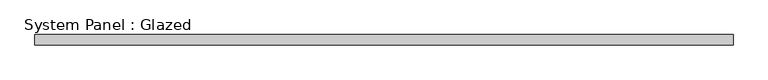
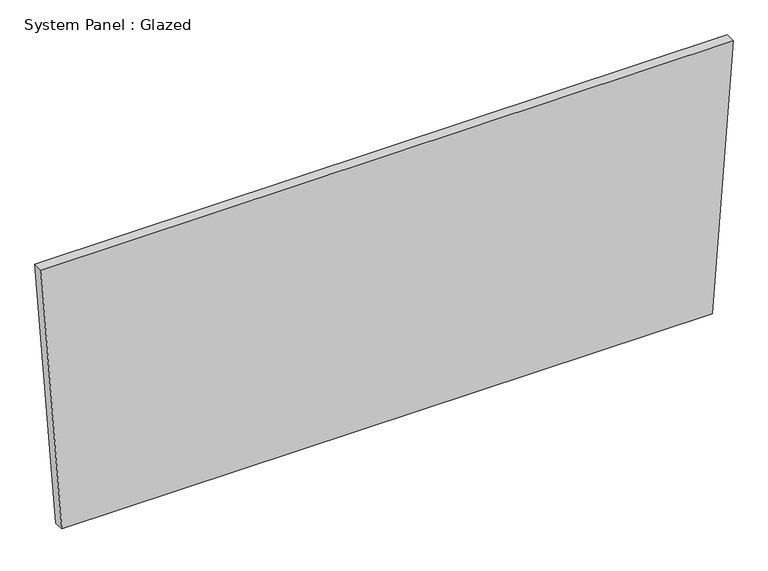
"""IFC4 building model written with IfcOpenShell, lengths in millimetres: plate geometry, System Panel : Glazed."""

from ifc_helpers import new_model, si_unit, frame, origin, place, context, project, spatial, polyline, outline, extrude, source, transform, mapped, element, save


def system_panel_glazed_7a613e81(model_context):
    return source(origin(), model_context, "Body", "SweptSolid", [
        extrude(outline(polyline([(0.0011839, -812.2135261), (0.0, 812.2134379), (702.0474017, 864.5062882), (702.0474017, -864.5062882), (0.0011839, -812.2135261)])), frame((0.0, 19.05, 0.0), z_axis=(0.0, 1.0, 0.0), x_axis=(0.0, 0.0, 1.0)), (0.0, 0.0, 1.0), 25.4),
    ])


if __name__ == "__main__":
    model = new_model("IFC4")
    model_context = context("Model", 3, world=origin())
    ifc_project = project(units=[si_unit("LENGTHUNIT", "METRE", prefix="MILLI")], contexts=[model_context])
    site = spatial("IfcSite", under=ifc_project)
    building = spatial("IfcBuilding", under=site)
    placement = place(None, origin())
    system_panel_glazed_shape = system_panel_glazed_7a613e81(model_context)
    element("IfcPlate", 1, ObjectType="System Panel : Glazed", at=placement, inside=building, context=model_context, shape_type="MappedRepresentation", body=[
        mapped(system_panel_glazed_shape, transform((0.0, 0.0, 0.0), x_axis=(1.0, 0.0, 0.0), y_axis=(0.0, 1.0, 0.0), z_axis=(0.0, 0.0, 1.0))),
    ])
    save(model, "model.ifc")
